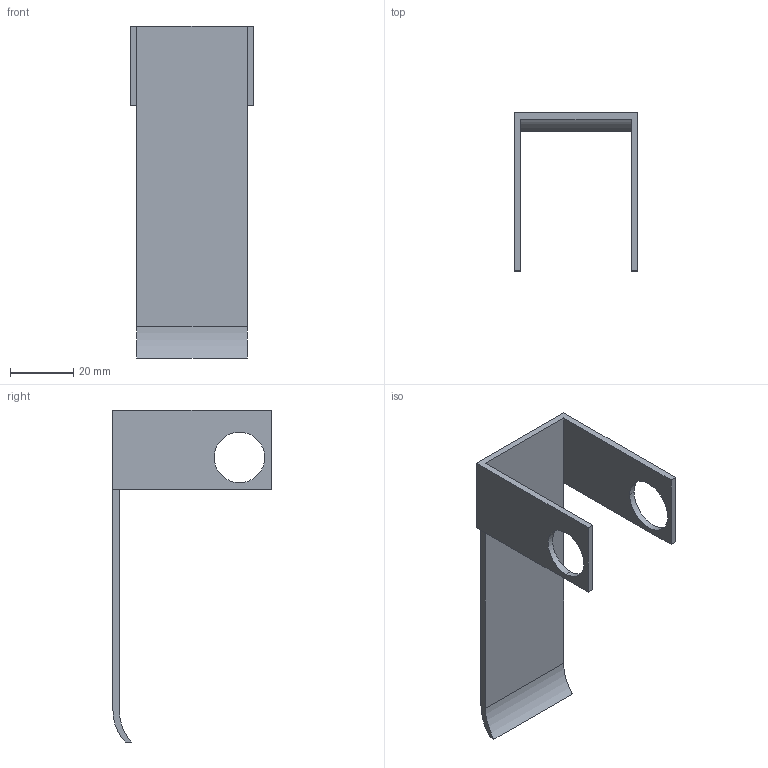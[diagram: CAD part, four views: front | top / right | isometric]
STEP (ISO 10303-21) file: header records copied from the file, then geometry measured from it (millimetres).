
FILE_DESCRIPTION (( 'STEP AP214' ), '1' );
FILE_NAME ('末端上刀口连接件.STEP', '2024-11-14T11:43:45', ( '' ), ( '' ), 'SwSTEP 2.0', 'SolidWorks 2021', '' );
FILE_SCHEMA (( 'AUTOMOTIVE_DESIGN' ));
Length unit declared in the file: millimetre
Products named in the file (1): 末端上刀口连接件
Bounding box: 39 x 50 x 105 mm (x, y, z)
Volume: 11493.9 mm3; surface area: 12727.5 mm2
Topology: 1 solids, 1 shells, 20 faces, 52 edges, 34 vertices
Faces by surface type: plane 14, cylinder 6
Entity records: 654 total; most frequent: CARTESIAN_POINT 107, DIRECTION 106, ORIENTED_EDGE 104, EDGE_CURVE 52, VECTOR 40, LINE 40, VERTEX_POINT 34, AXIS2_PLACEMENT_3D 33
